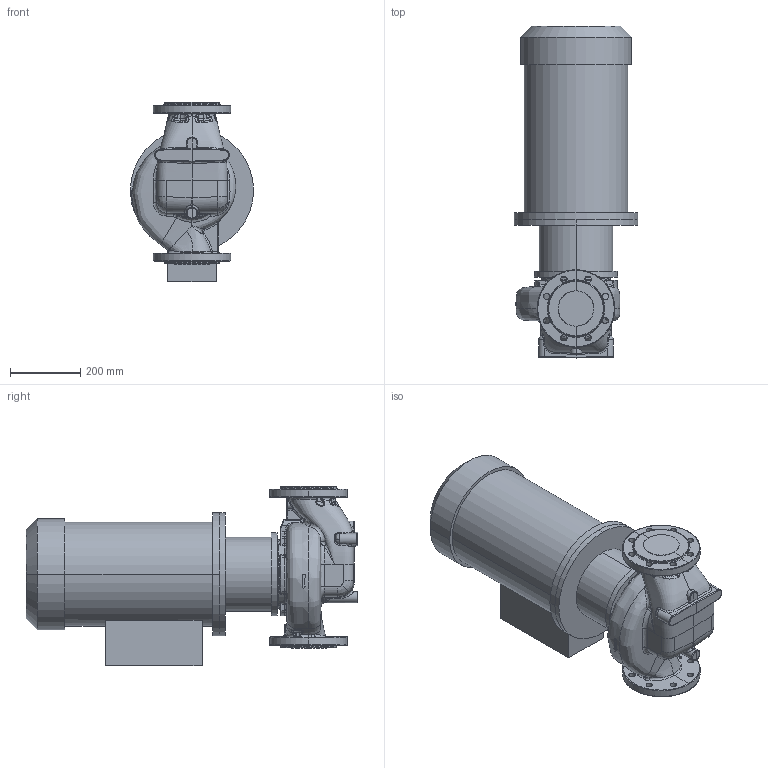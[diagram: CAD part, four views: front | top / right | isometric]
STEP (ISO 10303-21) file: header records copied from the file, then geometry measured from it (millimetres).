
FILE_DESCRIPTION (( 'STEP AP214' ), '1' );
FILE_NAME ('KRL 100-170-2-18,5.STEP', '2026-04-06T13:53:17', ( '' ), ( '' ), 'SwSTEP 2.0', 'SolidWorks 2016', '' );
FILE_SCHEMA (( 'AUTOMOTIVE_DESIGN' ));
Length unit declared in the file: millimetre
Products named in the file (1): KRL 100-170-2-18,5
Bounding box: 350 x 942.8 x 510 mm (x, y, z)
Volume: 65347179.3 mm3; surface area: 1747552.9 mm2
Topology: 4 solids, 4 shells, 668 faces, 1701 edges, 1010 vertices
Faces by surface type: bspline 330, cylinder 172, plane 114, cone 20, torus 16, sphere 16
Entity records: 62323 total; most frequent: CARTESIAN_POINT 42240, ORIENTED_EDGE 3338, DIRECTION 1787, EDGE_CURVE 1669, VERTEX_POINT 1010, AXIS2_PLACEMENT_3D 735, EDGE_LOOP 701, UNCERTAINTY_MEASURE_WITH_UNIT 674
